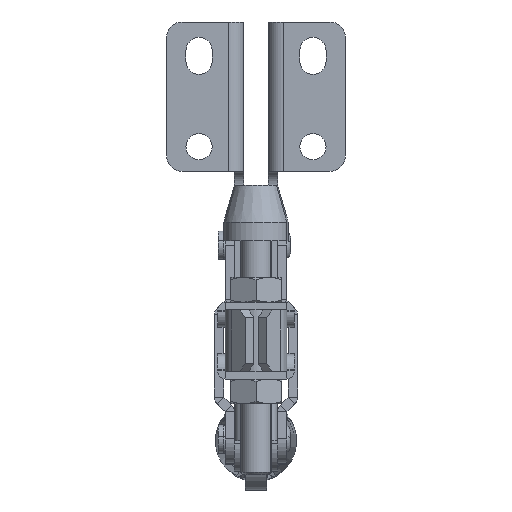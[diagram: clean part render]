
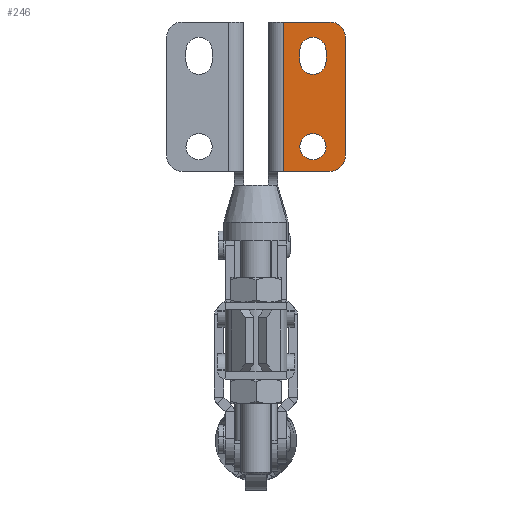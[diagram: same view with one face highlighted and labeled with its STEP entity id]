
A CAD part, left-side view. The second image highlights one B-rep face of the part: STEP entity #246.
In plain terms, the highlighted planar face has unit normal (-1, 0, 0).
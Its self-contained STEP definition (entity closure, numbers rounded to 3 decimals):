
#185 = ORIENTED_EDGE ( 'NONE', *, *, #29223, .F. ) ;
#196 = CARTESIAN_POINT ( 'NONE',  ( -15., 90.98, -22.923 ) ) ;
#246 = ADVANCED_FACE ( 'NONE', ( #15851, #13594, #7830 ), #9902, .F. ) ;
#597 = CARTESIAN_POINT ( 'NONE',  ( -15., -22.495, 20.577 ) ) ;
#667 = EDGE_CURVE ( 'NONE', #4725, #31900, #5047, .T. ) ;
#990 = VECTOR ( 'NONE', #24929, 1000. ) ;
#1130 = ORIENTED_EDGE ( 'NONE', *, *, #7554, .T. ) ;
#1491 = AXIS2_PLACEMENT_3D ( 'NONE', #3985, #9910, #6760 ) ;
#1569 = CARTESIAN_POINT ( 'NONE',  ( -15., -18.245, 12.827 ) ) ;
#1635 = LINE ( 'NONE', #30189, #8212 ) ;
#2113 = CIRCLE ( 'NONE', #1491, 4.25 ) ;
#2432 = CIRCLE ( 'NONE', #35601, 4.25 ) ;
#2442 = EDGE_CURVE ( 'NONE', #31395, #32966, #26393, .T. ) ;
#3725 = CARTESIAN_POINT ( 'NONE',  ( -15., -27.991, 20.577 ) ) ;
#3985 = CARTESIAN_POINT ( 'NONE',  ( -15., -22.495, 16.327 ) ) ;
#4725 = VERTEX_POINT ( 'NONE', #33689 ) ;
#4757 = ORIENTED_EDGE ( 'NONE', *, *, #25992, .T. ) ;
#4777 = DIRECTION ( 'NONE',  ( 0., 0., 1. ) ) ;
#5047 = CIRCLE ( 'NONE', #23443, 4.25 ) ;
#5057 = CARTESIAN_POINT ( 'NONE',  ( -15., 198.322, -32.556 ) ) ;
#5250 = ORIENTED_EDGE ( 'NONE', *, *, #30194, .F. ) ;
#5672 = AXIS2_PLACEMENT_3D ( 'NONE', #15314, #29215, #23653 ) ;
#6724 = CIRCLE ( 'NONE', #33340, 4.25 ) ;
#6760 = DIRECTION ( 'NONE',  ( 0., 0., 1. ) ) ;
#7296 = VERTEX_POINT ( 'NONE', #12839 ) ;
#7349 = VERTEX_POINT ( 'NONE', #12465 ) ;
#7554 = EDGE_CURVE ( 'NONE', #32966, #16506, #11698, .T. ) ;
#7830 = FACE_OUTER_BOUND ( 'NONE', #25204, .T. ) ;
#8079 = CIRCLE ( 'NONE', #11058, 4.25 ) ;
#8171 = VECTOR ( 'NONE', #12890, 1000. ) ;
#8212 = VECTOR ( 'NONE', #4777, 1000. ) ;
#8235 = EDGE_CURVE ( 'NONE', #7349, #22908, #8079, .T. ) ;
#8576 = EDGE_CURVE ( 'NONE', #26688, #14990, #26659, .T. ) ;
#9254 = LINE ( 'NONE', #14831, #22459 ) ;
#9559 = VECTOR ( 'NONE', #14483, 1000. ) ;
#9719 = CARTESIAN_POINT ( 'NONE',  ( -15., -26.745, 12.827 ) ) ;
#9902 = PLANE ( 'NONE',  #20439 ) ;
#9910 = DIRECTION ( 'NONE',  ( -1., 0., 0. ) ) ;
#9930 = ORIENTED_EDGE ( 'NONE', *, *, #11560, .F. ) ;
#10260 = DIRECTION ( 'NONE',  ( 0., 0., -1. ) ) ;
#10524 = ORIENTED_EDGE ( 'NONE', *, *, #20797, .F. ) ;
#11058 = AXIS2_PLACEMENT_3D ( 'NONE', #12113, #23436, #29177 ) ;
#11560 = EDGE_CURVE ( 'NONE', #22174, #23725, #6724, .T. ) ;
#11698 = LINE ( 'NONE', #196, #9559 ) ;
#12113 = CARTESIAN_POINT ( 'NONE',  ( -15., -22.495, -14.923 ) ) ;
#12262 = VERTEX_POINT ( 'NONE', #16431 ) ;
#12465 = CARTESIAN_POINT ( 'NONE',  ( -15., -22.495, -10.673 ) ) ;
#12839 = CARTESIAN_POINT ( 'NONE',  ( -15., -32.991, -17.923 ) ) ;
#12890 = DIRECTION ( 'NONE',  ( 0., 0., -1. ) ) ;
#13594 = FACE_BOUND ( 'NONE', #19786, .T. ) ;
#13795 = CARTESIAN_POINT ( 'NONE',  ( -15., 90.98, 25.577 ) ) ;
#13959 = CARTESIAN_POINT ( 'NONE',  ( -15., -22.495, -14.923 ) ) ;
#14251 = EDGE_CURVE ( 'NONE', #22908, #7349, #2432, .T. ) ;
#14483 = DIRECTION ( 'NONE',  ( 0., -1., 0. ) ) ;
#14831 = CARTESIAN_POINT ( 'NONE',  ( -15., -32.991, -22.923 ) ) ;
#14990 = VERTEX_POINT ( 'NONE', #16399 ) ;
#15314 = CARTESIAN_POINT ( 'NONE',  ( -15., -27.991, -17.923 ) ) ;
#15602 = DIRECTION ( 'NONE',  ( 0., 0., 1. ) ) ;
#15851 = FACE_BOUND ( 'NONE', #22153, .T. ) ;
#16399 = CARTESIAN_POINT ( 'NONE',  ( -15., -27.991, 25.577 ) ) ;
#16431 = CARTESIAN_POINT ( 'NONE',  ( -15., -18.245, 16.327 ) ) ;
#16506 = VERTEX_POINT ( 'NONE', #26844 ) ;
#17769 = CARTESIAN_POINT ( 'NONE',  ( -15., -22.495, 12.827 ) ) ;
#17958 = DIRECTION ( 'NONE',  ( 0., 0., 1. ) ) ;
#17980 = ORIENTED_EDGE ( 'NONE', *, *, #30106, .F. ) ;
#19786 = EDGE_LOOP ( 'NONE', ( #5250, #28346, #185, #10524, #9930 ) ) ;
#19902 = DIRECTION ( 'NONE',  ( -1., 0., 0. ) ) ;
#20439 = AXIS2_PLACEMENT_3D ( 'NONE', #5057, #32699, #10260 ) ;
#20440 = DIRECTION ( 'NONE',  ( -1., 0., 0. ) ) ;
#20797 = EDGE_CURVE ( 'NONE', #23725, #12262, #2113, .T. ) ;
#22153 = EDGE_LOOP ( 'NONE', ( #23813, #27577 ) ) ;
#22174 = VERTEX_POINT ( 'NONE', #27163 ) ;
#22459 = VECTOR ( 'NONE', #34675, 1000. ) ;
#22472 = ORIENTED_EDGE ( 'NONE', *, *, #24861, .T. ) ;
#22501 = AXIS2_PLACEMENT_3D ( 'NONE', #3725, #20440, #26166 ) ;
#22908 = VERTEX_POINT ( 'NONE', #29622 ) ;
#23436 = DIRECTION ( 'NONE',  ( -1., 0., 0. ) ) ;
#23443 = AXIS2_PLACEMENT_3D ( 'NONE', #17769, #27007, #17958 ) ;
#23653 = DIRECTION ( 'NONE',  ( 0., 0., -1. ) ) ;
#23725 = VERTEX_POINT ( 'NONE', #597 ) ;
#23813 = ORIENTED_EDGE ( 'NONE', *, *, #8235, .F. ) ;
#23946 = CARTESIAN_POINT ( 'NONE',  ( -15., -22.495, 16.327 ) ) ;
#24861 = EDGE_CURVE ( 'NONE', #16506, #7296, #34055, .T. ) ;
#24929 = DIRECTION ( 'NONE',  ( 0., 1., 0. ) ) ;
#25204 = EDGE_LOOP ( 'NONE', ( #1130, #22472, #17980, #27516, #4757, #28503 ) ) ;
#25471 = LINE ( 'NONE', #13795, #990 ) ;
#25932 = CARTESIAN_POINT ( 'NONE',  ( -15., -12.991, -22.923 ) ) ;
#25992 = EDGE_CURVE ( 'NONE', #14990, #31395, #25471, .T. ) ;
#26166 = DIRECTION ( 'NONE',  ( 0., 0., -1. ) ) ;
#26393 = LINE ( 'NONE', #34742, #30015 ) ;
#26659 = CIRCLE ( 'NONE', #22501, 5. ) ;
#26688 = VERTEX_POINT ( 'NONE', #34156 ) ;
#26844 = CARTESIAN_POINT ( 'NONE',  ( -15., -27.991, -22.923 ) ) ;
#26977 = LINE ( 'NONE', #1569, #8171 ) ;
#27007 = DIRECTION ( 'NONE',  ( -1., 0., 0. ) ) ;
#27163 = CARTESIAN_POINT ( 'NONE',  ( -15., -26.745, 16.327 ) ) ;
#27516 = ORIENTED_EDGE ( 'NONE', *, *, #8576, .T. ) ;
#27577 = ORIENTED_EDGE ( 'NONE', *, *, #14251, .F. ) ;
#28346 = ORIENTED_EDGE ( 'NONE', *, *, #667, .F. ) ;
#28503 = ORIENTED_EDGE ( 'NONE', *, *, #2442, .T. ) ;
#28557 = CARTESIAN_POINT ( 'NONE',  ( -15., -12.991, 25.577 ) ) ;
#28596 = DIRECTION ( 'NONE',  ( 0., 0., 1. ) ) ;
#29177 = DIRECTION ( 'NONE',  ( 0., 0., 1. ) ) ;
#29215 = DIRECTION ( 'NONE',  ( -1., 0., 0. ) ) ;
#29223 = EDGE_CURVE ( 'NONE', #12262, #4725, #26977, .T. ) ;
#29622 = CARTESIAN_POINT ( 'NONE',  ( -15., -22.495, -19.173 ) ) ;
#29720 = DIRECTION ( 'NONE',  ( 0., 0., -1. ) ) ;
#30015 = VECTOR ( 'NONE', #29720, 1000. ) ;
#30106 = EDGE_CURVE ( 'NONE', #26688, #7296, #9254, .T. ) ;
#30189 = CARTESIAN_POINT ( 'NONE',  ( -15., -26.745, 12.827 ) ) ;
#30194 = EDGE_CURVE ( 'NONE', #31900, #22174, #1635, .T. ) ;
#31395 = VERTEX_POINT ( 'NONE', #28557 ) ;
#31900 = VERTEX_POINT ( 'NONE', #9719 ) ;
#32699 = DIRECTION ( 'NONE',  ( 1., 0., 0. ) ) ;
#32966 = VERTEX_POINT ( 'NONE', #25932 ) ;
#33340 = AXIS2_PLACEMENT_3D ( 'NONE', #23946, #35255, #15602 ) ;
#33689 = CARTESIAN_POINT ( 'NONE',  ( -15., -18.245, 12.827 ) ) ;
#34055 = CIRCLE ( 'NONE', #5672, 5. ) ;
#34156 = CARTESIAN_POINT ( 'NONE',  ( -15., -32.991, 20.577 ) ) ;
#34675 = DIRECTION ( 'NONE',  ( 0., 0., -1. ) ) ;
#34742 = CARTESIAN_POINT ( 'NONE',  ( -15., -12.991, -32.556 ) ) ;
#35255 = DIRECTION ( 'NONE',  ( -1., 0., 0. ) ) ;
#35601 = AXIS2_PLACEMENT_3D ( 'NONE', #13959, #19902, #28596 ) ;
